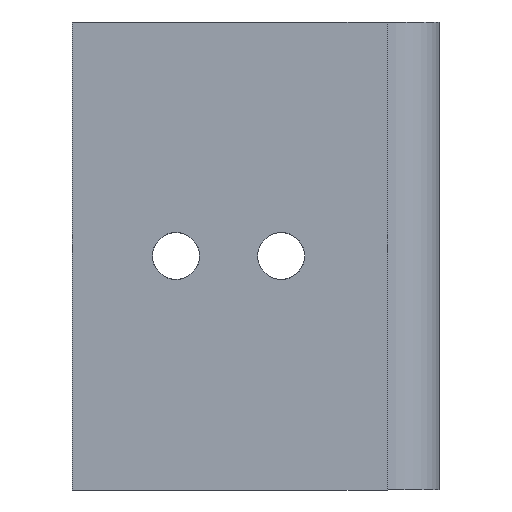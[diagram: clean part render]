
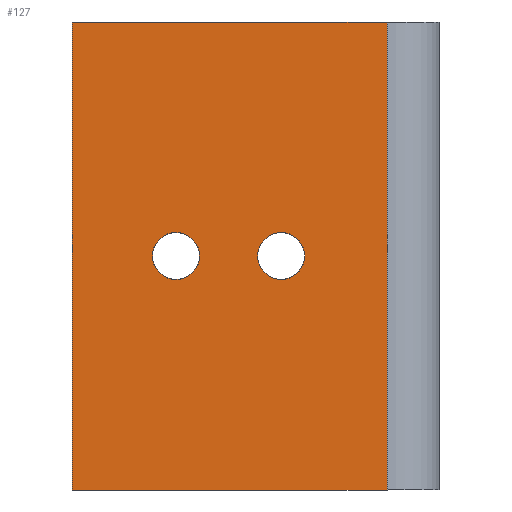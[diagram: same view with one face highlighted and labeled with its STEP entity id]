
A CAD part, front view. The second image highlights one B-rep face of the part: STEP entity #127.
In plain terms, the highlighted planar face has unit normal (0, -1, 0).
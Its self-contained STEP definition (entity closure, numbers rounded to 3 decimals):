
#52=CARTESIAN_POINT('Axis2P3D Location',(0.,0.,0.)) ;
#57=CARTESIAN_POINT('Line Origine',(0.,0.,0.)) ;
#61=CARTESIAN_POINT('Vertex',(0.,0.,-42.4)) ;
#63=CARTESIAN_POINT('Vertex',(0.,0.,42.4)) ;
#66=CARTESIAN_POINT('Line Origine',(28.5,0.,-42.4)) ;
#70=CARTESIAN_POINT('Vertex',(57.,0.,-42.4)) ;
#73=CARTESIAN_POINT('Line Origine',(57.,0.,0.)) ;
#77=CARTESIAN_POINT('Vertex',(57.,0.,42.4)) ;
#80=CARTESIAN_POINT('Line Origine',(28.5,0.,42.4)) ;
#91=CARTESIAN_POINT('Axis2P3D Location',(18.75,0.,0.)) ;
#95=CARTESIAN_POINT('Vertex',(23.,0.,0.)) ;
#97=CARTESIAN_POINT('Vertex',(14.5,0.,0.)) ;
#100=CARTESIAN_POINT('Axis2P3D Location',(18.75,0.,0.)) ;
#109=CARTESIAN_POINT('Axis2P3D Location',(37.8,0.,0.)) ;
#113=CARTESIAN_POINT('Vertex',(42.05,0.,0.)) ;
#115=CARTESIAN_POINT('Vertex',(33.55,0.,0.)) ;
#118=CARTESIAN_POINT('Axis2P3D Location',(37.8,0.,0.)) ;
#53=DIRECTION('Axis2P3D Direction',(0.,-1.,0.)) ;
#54=DIRECTION('Axis2P3D XDirection',(1.,0.,0.)) ;
#58=DIRECTION('Vector Direction',(0.,0.,1.)) ;
#67=DIRECTION('Vector Direction',(1.,0.,0.)) ;
#74=DIRECTION('Vector Direction',(0.,0.,1.)) ;
#81=DIRECTION('Vector Direction',(1.,0.,0.)) ;
#92=DIRECTION('Axis2P3D Direction',(0.,-1.,0.)) ;
#101=DIRECTION('Axis2P3D Direction',(0.,-1.,0.)) ;
#110=DIRECTION('Axis2P3D Direction',(0.,-1.,0.)) ;
#119=DIRECTION('Axis2P3D Direction',(0.,-1.,0.)) ;
#55=AXIS2_PLACEMENT_3D('Plane Axis2P3D',#52,#53,#54) ;
#93=AXIS2_PLACEMENT_3D('Circle Axis2P3D',#91,#92,$) ;
#102=AXIS2_PLACEMENT_3D('Circle Axis2P3D',#100,#101,$) ;
#111=AXIS2_PLACEMENT_3D('Circle Axis2P3D',#109,#110,$) ;
#120=AXIS2_PLACEMENT_3D('Circle Axis2P3D',#118,#119,$) ;
#86=ORIENTED_EDGE('',*,*,#65,.F.) ;
#87=ORIENTED_EDGE('',*,*,#72,.T.) ;
#88=ORIENTED_EDGE('',*,*,#79,.T.) ;
#89=ORIENTED_EDGE('',*,*,#84,.F.) ;
#106=ORIENTED_EDGE('',*,*,#99,.F.) ;
#107=ORIENTED_EDGE('',*,*,#104,.F.) ;
#124=ORIENTED_EDGE('',*,*,#117,.F.) ;
#125=ORIENTED_EDGE('',*,*,#122,.F.) ;
#108=FACE_BOUND('',#105,.T.) ;
#126=FACE_BOUND('',#123,.T.) ;
#59=VECTOR('Line Direction',#58,1.) ;
#68=VECTOR('Line Direction',#67,1.) ;
#75=VECTOR('Line Direction',#74,1.) ;
#82=VECTOR('Line Direction',#81,1.) ;
#127=ADVANCED_FACE('PartBody',(#90,#108,#126),#56,.T.) ;
#94=CIRCLE('generated circle',#93,4.25) ;
#103=CIRCLE('generated circle',#102,4.25) ;
#112=CIRCLE('generated circle',#111,4.25) ;
#121=CIRCLE('generated circle',#120,4.25) ;
#65=EDGE_CURVE('',#62,#64,#60,.T.) ;
#72=EDGE_CURVE('',#62,#71,#69,.T.) ;
#79=EDGE_CURVE('',#71,#78,#76,.T.) ;
#84=EDGE_CURVE('',#64,#78,#83,.T.) ;
#99=EDGE_CURVE('',#96,#98,#94,.T.) ;
#104=EDGE_CURVE('',#98,#96,#103,.T.) ;
#117=EDGE_CURVE('',#114,#116,#112,.T.) ;
#122=EDGE_CURVE('',#116,#114,#121,.T.) ;
#85=EDGE_LOOP('',(#86,#87,#88,#89)) ;
#105=EDGE_LOOP('',(#106,#107)) ;
#123=EDGE_LOOP('',(#124,#125)) ;
#90=FACE_OUTER_BOUND('',#85,.T.) ;
#60=LINE('Line',#57,#59) ;
#69=LINE('Line',#66,#68) ;
#76=LINE('Line',#73,#75) ;
#83=LINE('Line',#80,#82) ;
#56=PLANE('',#55) ;
#62=VERTEX_POINT('',#61) ;
#64=VERTEX_POINT('',#63) ;
#71=VERTEX_POINT('',#70) ;
#78=VERTEX_POINT('',#77) ;
#96=VERTEX_POINT('',#95) ;
#98=VERTEX_POINT('',#97) ;
#114=VERTEX_POINT('',#113) ;
#116=VERTEX_POINT('',#115) ;
